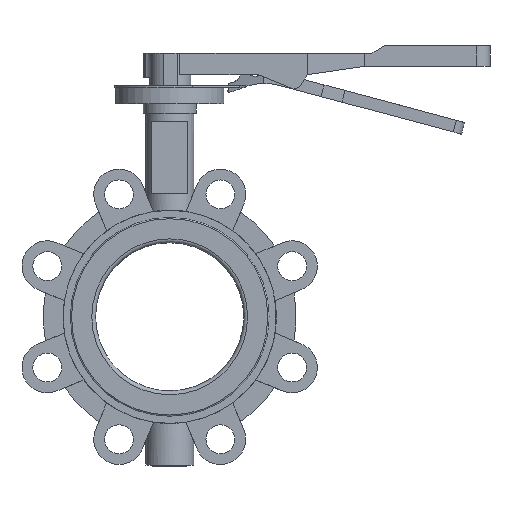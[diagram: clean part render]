
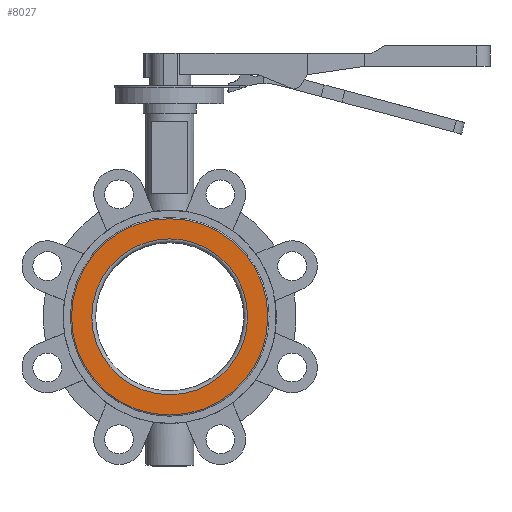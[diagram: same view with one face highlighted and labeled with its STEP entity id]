
A CAD part, front view. The second image highlights one B-rep face of the part: STEP entity #8027.
In plain terms, the highlighted planar face has unit normal (0, -1, 0) as drawn and (-1, 0, 0) by its records, which use the part's own axes.
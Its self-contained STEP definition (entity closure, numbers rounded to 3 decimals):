
#85 = CIRCLE ( 'NONE', #7301, 81.5 ) ;
#211 = FACE_BOUND ( 'NONE', #8085, .T. ) ;
#452 = DIRECTION ( 'NONE',  ( -1., 0., 0. ) ) ;
#547 = DIRECTION ( 'NONE',  ( 0., 0., -1. ) ) ;
#580 = CARTESIAN_POINT ( 'NONE',  ( -30., 0., 0. ) ) ;
#736 = EDGE_CURVE ( 'NONE', #8622, #8622, #1256, .T. ) ;
#1224 = DIRECTION ( 'NONE',  ( -1., 0., 0. ) ) ;
#1256 = CIRCLE ( 'NONE', #9014, 64.69 ) ;
#1732 = ORIENTED_EDGE ( 'NONE', *, *, #736, .F. ) ;
#2853 = DIRECTION ( 'NONE',  ( 0., 0., 1. ) ) ;
#5028 = CARTESIAN_POINT ( 'NONE',  ( -30., 0., 64.69 ) ) ;
#5794 = CARTESIAN_POINT ( 'NONE',  ( -30., 0., 0. ) ) ;
#6019 = AXIS2_PLACEMENT_3D ( 'NONE', #580, #7473, #547 ) ;
#6743 = PLANE ( 'NONE',  #6019 ) ;
#6869 = FACE_OUTER_BOUND ( 'NONE', #9893, .T. ) ;
#6929 = ORIENTED_EDGE ( 'NONE', *, *, #8825, .T. ) ;
#7301 = AXIS2_PLACEMENT_3D ( 'NONE', #9740, #452, #2853 ) ;
#7473 = DIRECTION ( 'NONE',  ( 1., 0., 0. ) ) ;
#7543 = VERTEX_POINT ( 'NONE', #8311 ) ;
#8027 = ADVANCED_FACE ( 'NONE', ( #211, #6869 ), #6743, .F. ) ;
#8085 = EDGE_LOOP ( 'NONE', ( #1732 ) ) ;
#8141 = DIRECTION ( 'NONE',  ( 0., 0., 1. ) ) ;
#8311 = CARTESIAN_POINT ( 'NONE',  ( -30., 0., 81.5 ) ) ;
#8622 = VERTEX_POINT ( 'NONE', #5028 ) ;
#8825 = EDGE_CURVE ( 'NONE', #7543, #7543, #85, .T. ) ;
#9014 = AXIS2_PLACEMENT_3D ( 'NONE', #5794, #1224, #8141 ) ;
#9740 = CARTESIAN_POINT ( 'NONE',  ( -30., 0., 0. ) ) ;
#9893 = EDGE_LOOP ( 'NONE', ( #6929 ) ) ;
